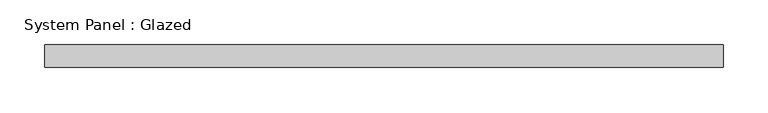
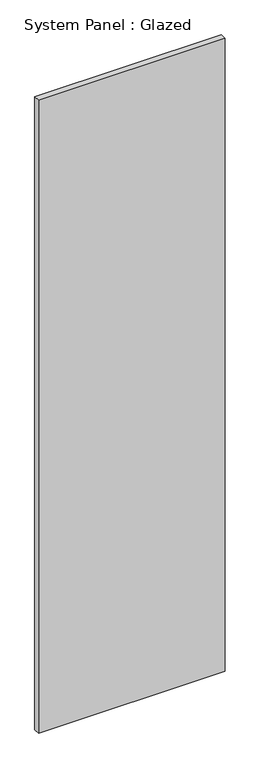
"""IFC4 building model written with IfcOpenShell, lengths in millimetres: plate geometry, System Panel : Glazed."""

from ifc_helpers import new_model, si_unit, origin, origin_with_axes, place, context, project, spatial, polyline, outline, extrude, source, transform, mapped, element, save


def system_panel_glazed_5c8ca9a5(model_context):
    return source(origin(), model_context, "Body", "SweptSolid", [
        extrude(outline(polyline([(379.4125, 19.05), (-379.4125, 19.05), (-379.4125, 44.45), (379.4125, 44.45), (379.4125, 19.05)])), origin_with_axes(), (0.0, 0.0, 1.0), 2717.8),
    ])


if __name__ == "__main__":
    model = new_model("IFC4")
    model_context = context("Model", 3, world=origin())
    ifc_project = project(units=[si_unit("LENGTHUNIT", "METRE", prefix="MILLI")], contexts=[model_context])
    site = spatial("IfcSite", under=ifc_project)
    building = spatial("IfcBuilding", under=site)
    placement = place(None, origin())
    system_panel_glazed_shape = system_panel_glazed_5c8ca9a5(model_context)
    element("IfcPlate", 1, ObjectType="System Panel : Glazed", at=placement, inside=building, context=model_context, shape_type="MappedRepresentation", body=[
        mapped(system_panel_glazed_shape, transform((0.0, 0.0, 0.0), x_axis=(1.0, 0.0, 0.0), y_axis=(0.0, 1.0, 0.0), z_axis=(0.0, 0.0, 1.0))),
    ])
    save(model, "model.ifc")
